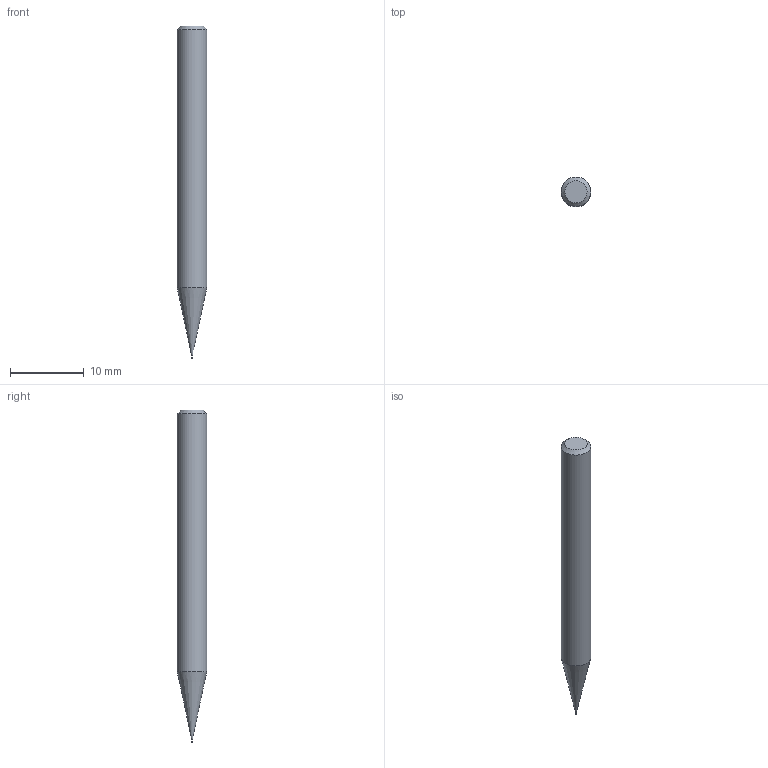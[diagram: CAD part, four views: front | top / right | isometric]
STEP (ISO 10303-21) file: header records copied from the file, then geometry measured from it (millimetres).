
FILE_DESCRIPTION((''),'2;1');
FILE_NAME('C:\Users\nsx150\AppData\Local\Temp\Mastercam 2021\3SYKECWX22\TEMP.step','2021-04-22T09:43:59',(''),(''),'STEP Write','Mastercam 2021 ... CNC Software, Inc.','');
FILE_SCHEMA(('AUTOMOTIVE_DESIGN'));
Length unit declared in the file: millimetre
Products named in the file (1): None
Bounding box: 4 x 4 x 45 mm (x, y, z)
Volume: 484 mm3; surface area: 515.1 mm2
Topology: 2 solids, 2 shells, 10 faces, 14 edges, 8 vertices
Faces by surface type: plane 4, cylinder 3, cone 2, torus 1
Full cylindrical faces by diameter (mm): 0.085 x1, 0.1 x1, 4 x1
Entity records: 232 total; most frequent: DIRECTION 40, CARTESIAN_POINT 28, AXIS2_PLACEMENT_3D 20, ORIENTED_EDGE 16, EDGE_LOOP 16, STYLED_ITEM 13, ADVANCED_FACE 10, FACE_BOUND 10
